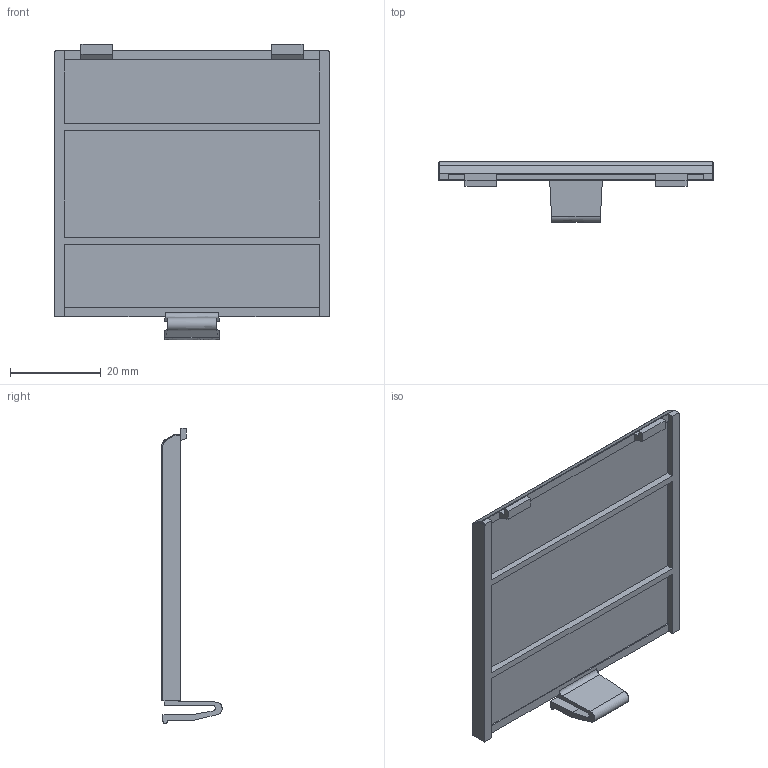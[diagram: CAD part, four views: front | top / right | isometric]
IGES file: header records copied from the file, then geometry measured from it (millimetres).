
Start section: SolidWorks IGES file using analytic representation for surfaces
Global section: file name: C:\Users\Alex\Desktop\GameBoyBatteryCover.IGS; native system: SolidWorks 2013; preprocessor: SolidWorks 2013; author: Alex; date: 120827.224401; units: millimetre
Bounding box: 60.6 x 13.25 x 64.92 mm (x, y, z)
Surface area: 9384.2 mm2 (no closed solid volume)
Topology: 0 solids, 0 shells, 113 faces, 714 edges, 714 vertices
Faces by surface type: bspline 105, revolution 8
